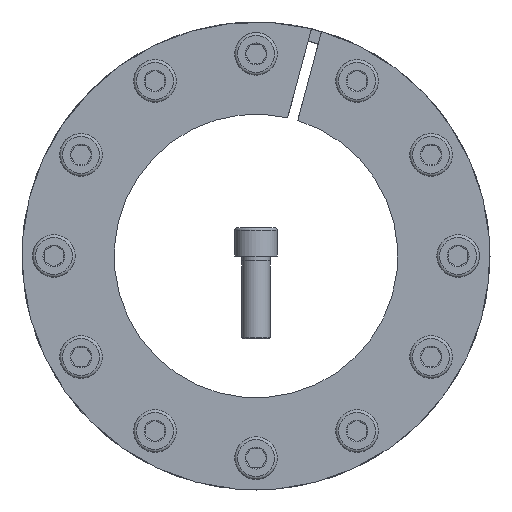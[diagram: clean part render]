
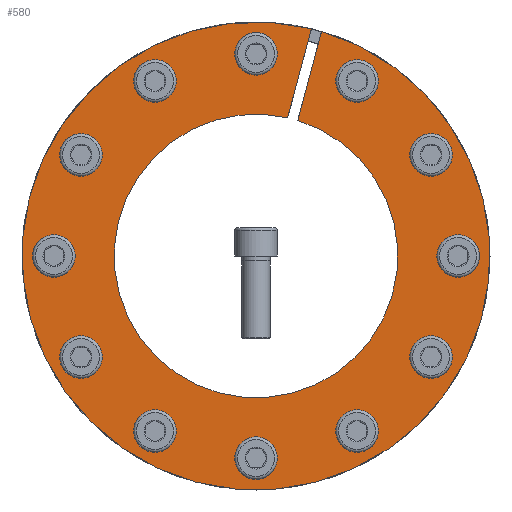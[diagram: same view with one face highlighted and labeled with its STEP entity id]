
A CAD part, front view. The second image highlights one B-rep face of the part: STEP entity #580.
In plain terms, the highlighted planar face has unit normal (0, -1, 0).
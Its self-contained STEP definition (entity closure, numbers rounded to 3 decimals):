
#580 = ADVANCED_FACE( '', ( #1088, #1089, #1090, #1091, #1092, #1093, #1094, #1095, #1096, #1097, #1098, #1099, #1100 ), #1101, .F. );
#1088 = FACE_BOUND( '', #1924, .T. );
#1089 = FACE_BOUND( '', #1925, .T. );
#1090 = FACE_BOUND( '', #1926, .T. );
#1091 = FACE_BOUND( '', #1927, .T. );
#1092 = FACE_BOUND( '', #1928, .T. );
#1093 = FACE_BOUND( '', #1929, .T. );
#1094 = FACE_BOUND( '', #1930, .T. );
#1095 = FACE_BOUND( '', #1931, .T. );
#1096 = FACE_BOUND( '', #1932, .T. );
#1097 = FACE_BOUND( '', #1933, .T. );
#1098 = FACE_BOUND( '', #1934, .T. );
#1099 = FACE_BOUND( '', #1935, .T. );
#1100 = FACE_OUTER_BOUND( '', #1936, .T. );
#1101 = PLANE( '', #1937 );
#1924 = EDGE_LOOP( '', ( #2869 ) );
#1925 = EDGE_LOOP( '', ( #2870 ) );
#1926 = EDGE_LOOP( '', ( #2871 ) );
#1927 = EDGE_LOOP( '', ( #2872 ) );
#1928 = EDGE_LOOP( '', ( #2873 ) );
#1929 = EDGE_LOOP( '', ( #2874 ) );
#1930 = EDGE_LOOP( '', ( #2875 ) );
#1931 = EDGE_LOOP( '', ( #2876 ) );
#1932 = EDGE_LOOP( '', ( #2877 ) );
#1933 = EDGE_LOOP( '', ( #2878 ) );
#1934 = EDGE_LOOP( '', ( #2879 ) );
#1935 = EDGE_LOOP( '', ( #2880 ) );
#1936 = EDGE_LOOP( '', ( #2881, #2882, #2883, #2884 ) );
#1937 = AXIS2_PLACEMENT_3D( '', #2885, #2886, #2887 );
#2869 = ORIENTED_EDGE( '', *, *, #4763, .T. );
#2870 = ORIENTED_EDGE( '', *, *, #4764, .T. );
#2871 = ORIENTED_EDGE( '', *, *, #4765, .T. );
#2872 = ORIENTED_EDGE( '', *, *, #4766, .T. );
#2873 = ORIENTED_EDGE( '', *, *, #4767, .T. );
#2874 = ORIENTED_EDGE( '', *, *, #4768, .T. );
#2875 = ORIENTED_EDGE( '', *, *, #4769, .T. );
#2876 = ORIENTED_EDGE( '', *, *, #4770, .T. );
#2877 = ORIENTED_EDGE( '', *, *, #4771, .T. );
#2878 = ORIENTED_EDGE( '', *, *, #4772, .T. );
#2879 = ORIENTED_EDGE( '', *, *, #4773, .T. );
#2880 = ORIENTED_EDGE( '', *, *, #4748, .T. );
#2881 = ORIENTED_EDGE( '', *, *, #4743, .T. );
#2882 = ORIENTED_EDGE( '', *, *, #4749, .T. );
#2883 = ORIENTED_EDGE( '', *, *, #4720, .T. );
#2884 = ORIENTED_EDGE( '', *, *, #4711, .F. );
#2885 = CARTESIAN_POINT( '', ( 0., 0., 99. ) );
#2886 = DIRECTION( '', ( 0., 1., 0. ) );
#2887 = DIRECTION( '', ( 0., 0., 1. ) );
#4711 = EDGE_CURVE( '', #5230, #5226, #5232, .T. );
#4720 = EDGE_CURVE( '', #5249, #5226, #5250, .T. );
#4743 = EDGE_CURVE( '', #5230, #5285, #5287, .T. );
#4748 = EDGE_CURVE( '', #5293, #5293, #5294, .T. );
#4749 = EDGE_CURVE( '', #5285, #5249, #5295, .T. );
#4763 = EDGE_CURVE( '', #5321, #5321, #5322, .T. );
#4764 = EDGE_CURVE( '', #5323, #5323, #5324, .T. );
#4765 = EDGE_CURVE( '', #5325, #5325, #5326, .T. );
#4766 = EDGE_CURVE( '', #5327, #5327, #5328, .T. );
#4767 = EDGE_CURVE( '', #5329, #5329, #5330, .T. );
#4768 = EDGE_CURVE( '', #5331, #5331, #5332, .T. );
#4769 = EDGE_CURVE( '', #5333, #5333, #5334, .T. );
#4770 = EDGE_CURVE( '', #5335, #5335, #5336, .T. );
#4771 = EDGE_CURVE( '', #5337, #5337, #5338, .T. );
#4772 = EDGE_CURVE( '', #5339, #5339, #5340, .T. );
#4773 = EDGE_CURVE( '', #5341, #5341, #5342, .T. );
#5226 = VERTEX_POINT( '', #5987 );
#5230 = VERTEX_POINT( '', #5992 );
#5232 = CIRCLE( '', #5995, 60. );
#5249 = VERTEX_POINT( '', #6020 );
#5250 = LINE( '', #6021, #6022 );
#5285 = VERTEX_POINT( '', #6086 );
#5287 = LINE( '', #6089, #6090 );
#5293 = VERTEX_POINT( '', #6096 );
#5294 = CIRCLE( '', #6097, 6. );
#5295 = CIRCLE( '', #6098, 99. );
#5321 = VERTEX_POINT( '', #6124 );
#5322 = CIRCLE( '', #6125, 6. );
#5323 = VERTEX_POINT( '', #6126 );
#5324 = CIRCLE( '', #6127, 6. );
#5325 = VERTEX_POINT( '', #6128 );
#5326 = CIRCLE( '', #6129, 6. );
#5327 = VERTEX_POINT( '', #6130 );
#5328 = CIRCLE( '', #6131, 6. );
#5329 = VERTEX_POINT( '', #6132 );
#5330 = CIRCLE( '', #6133, 6. );
#5331 = VERTEX_POINT( '', #6134 );
#5332 = CIRCLE( '', #6135, 6. );
#5333 = VERTEX_POINT( '', #6136 );
#5334 = CIRCLE( '', #6137, 6. );
#5335 = VERTEX_POINT( '', #6138 );
#5336 = CIRCLE( '', #6139, 6. );
#5337 = VERTEX_POINT( '', #6140 );
#5338 = CIRCLE( '', #6141, 6. );
#5339 = VERTEX_POINT( '', #6142 );
#5340 = CIRCLE( '', #6143, 6. );
#5341 = VERTEX_POINT( '', #6144 );
#5342 = CIRCLE( '', #6145, 6. );
#5987 = CARTESIAN_POINT( '', ( 17.657, 0., 57.343 ) );
#5992 = CARTESIAN_POINT( '', ( 13.38, 0., 58.489 ) );
#5995 = AXIS2_PLACEMENT_3D( '', #7432, #7433, #7434 );
#6020 = CARTESIAN_POINT( '', ( 27.756, 0., 95.03 ) );
#6021 = CARTESIAN_POINT( '', ( 27.762, 0., 95.054 ) );
#6022 = VECTOR( '', #7449, 1000. );
#6086 = CARTESIAN_POINT( '', ( 23.478, 0., 96.176 ) );
#6089 = CARTESIAN_POINT( '', ( 13.38, 0., 58.489 ) );
#6090 = VECTOR( '', #7474, 1000. );
#6096 = CARTESIAN_POINT( '', ( -37.554, 0., 77.045 ) );
#6097 = AXIS2_PLACEMENT_3D( '', #7487, #7488, #7489 );
#6098 = AXIS2_PLACEMENT_3D( '', #7490, #7491, #7492 );
#6124 = CARTESIAN_POINT( '', ( 6., 0., 85.5 ) );
#6125 = AXIS2_PLACEMENT_3D( '', #7532, #7533, #7534 );
#6126 = CARTESIAN_POINT( '', ( 47.946, 0., 71.045 ) );
#6127 = AXIS2_PLACEMENT_3D( '', #7535, #7536, #7537 );
#6128 = CARTESIAN_POINT( '', ( 77.045, 0., 37.554 ) );
#6129 = AXIS2_PLACEMENT_3D( '', #7538, #7539, #7540 );
#6130 = CARTESIAN_POINT( '', ( 85.5, 0., -6. ) );
#6131 = AXIS2_PLACEMENT_3D( '', #7541, #7542, #7543 );
#6132 = CARTESIAN_POINT( '', ( 71.045, 0., -47.946 ) );
#6133 = AXIS2_PLACEMENT_3D( '', #7544, #7545, #7546 );
#6134 = CARTESIAN_POINT( '', ( 37.554, 0., -77.045 ) );
#6135 = AXIS2_PLACEMENT_3D( '', #7547, #7548, #7549 );
#6136 = CARTESIAN_POINT( '', ( -6., 0., -85.5 ) );
#6137 = AXIS2_PLACEMENT_3D( '', #7550, #7551, #7552 );
#6138 = CARTESIAN_POINT( '', ( -47.946, 0., -71.045 ) );
#6139 = AXIS2_PLACEMENT_3D( '', #7553, #7554, #7555 );
#6140 = CARTESIAN_POINT( '', ( -77.045, 0., -37.554 ) );
#6141 = AXIS2_PLACEMENT_3D( '', #7556, #7557, #7558 );
#6142 = CARTESIAN_POINT( '', ( -85.5, 0., 6. ) );
#6143 = AXIS2_PLACEMENT_3D( '', #7559, #7560, #7561 );
#6144 = CARTESIAN_POINT( '', ( -71.045, 0., 47.946 ) );
#6145 = AXIS2_PLACEMENT_3D( '', #7562, #7563, #7564 );
#7432 = CARTESIAN_POINT( '', ( 0., 0., 0. ) );
#7433 = DIRECTION( '', ( 0., -1., 0. ) );
#7434 = DIRECTION( '', ( 0., 0., -1. ) );
#7449 = DIRECTION( '', ( -0.259, 0., -0.966 ) );
#7474 = DIRECTION( '', ( 0.259, 0., 0.966 ) );
#7487 = CARTESIAN_POINT( '', ( -42.75, 0., 74.045 ) );
#7488 = DIRECTION( '', ( 0., 1., 0. ) );
#7489 = DIRECTION( '', ( 0.866, 0., 0.5 ) );
#7490 = CARTESIAN_POINT( '', ( 0., 0., 0. ) );
#7491 = DIRECTION( '', ( 0., -1., 0. ) );
#7492 = DIRECTION( '', ( 0., 0., -1. ) );
#7532 = CARTESIAN_POINT( '', ( 0., 0., 85.5 ) );
#7533 = DIRECTION( '', ( 0., 1., 0. ) );
#7534 = DIRECTION( '', ( 1., 0., 0. ) );
#7535 = CARTESIAN_POINT( '', ( 42.75, 0., 74.045 ) );
#7536 = DIRECTION( '', ( 0., 1., 0. ) );
#7537 = DIRECTION( '', ( 0.866, 0., -0.5 ) );
#7538 = CARTESIAN_POINT( '', ( 74.045, 0., 42.75 ) );
#7539 = DIRECTION( '', ( 0., 1., 0. ) );
#7540 = DIRECTION( '', ( 0.5, 0., -0.866 ) );
#7541 = CARTESIAN_POINT( '', ( 85.5, 0., 0. ) );
#7542 = DIRECTION( '', ( 0., 1., 0. ) );
#7543 = DIRECTION( '', ( 0., 0., -1. ) );
#7544 = CARTESIAN_POINT( '', ( 74.045, 0., -42.75 ) );
#7545 = DIRECTION( '', ( 0., 1., 0. ) );
#7546 = DIRECTION( '', ( -0.5, 0., -0.866 ) );
#7547 = CARTESIAN_POINT( '', ( 42.75, 0., -74.045 ) );
#7548 = DIRECTION( '', ( 0., 1., 0. ) );
#7549 = DIRECTION( '', ( -0.866, 0., -0.5 ) );
#7550 = CARTESIAN_POINT( '', ( 0., 0., -85.5 ) );
#7551 = DIRECTION( '', ( 0., 1., 0. ) );
#7552 = DIRECTION( '', ( -1., 0., 0. ) );
#7553 = CARTESIAN_POINT( '', ( -42.75, 0., -74.045 ) );
#7554 = DIRECTION( '', ( 0., 1., 0. ) );
#7555 = DIRECTION( '', ( -0.866, 0., 0.5 ) );
#7556 = CARTESIAN_POINT( '', ( -74.045, 0., -42.75 ) );
#7557 = DIRECTION( '', ( 0., 1., 0. ) );
#7558 = DIRECTION( '', ( -0.5, 0., 0.866 ) );
#7559 = CARTESIAN_POINT( '', ( -85.5, 0., 0. ) );
#7560 = DIRECTION( '', ( 0., 1., 0. ) );
#7561 = DIRECTION( '', ( 0., 0., 1. ) );
#7562 = CARTESIAN_POINT( '', ( -74.045, 0., 42.75 ) );
#7563 = DIRECTION( '', ( 0., 1., 0. ) );
#7564 = DIRECTION( '', ( 0.5, 0., 0.866 ) );
